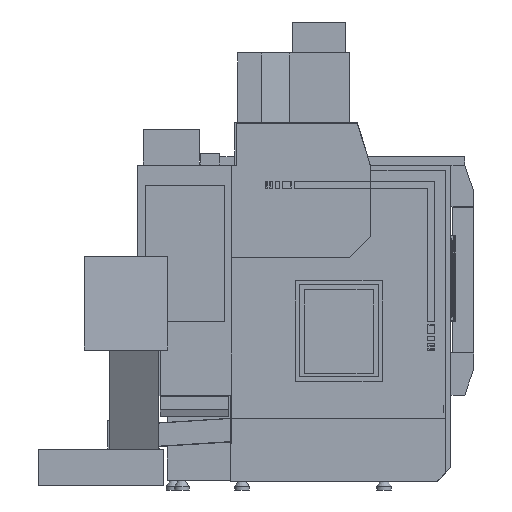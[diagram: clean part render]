
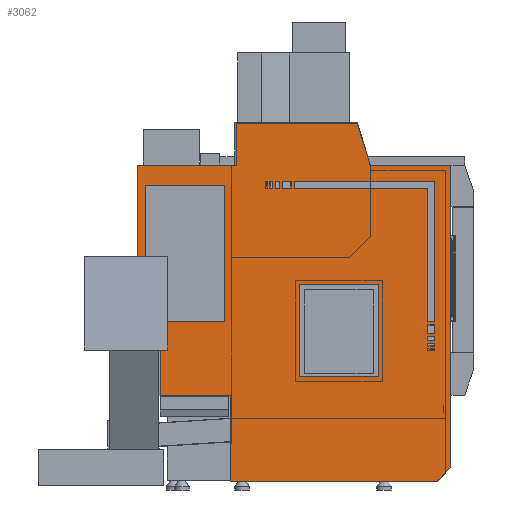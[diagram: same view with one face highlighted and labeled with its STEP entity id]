
A CAD part, left-side view. The second image highlights one B-rep face of the part: STEP entity #3062.
In plain terms, the highlighted planar face has unit normal (-1, 0, 0).
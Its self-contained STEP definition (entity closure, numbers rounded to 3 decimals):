
#2075=FACE_BOUND('',#8083,.T.);
#2076=FACE_BOUND('',#8084,.T.);
#2077=FACE_BOUND('',#8085,.T.);
#3062=ADVANCED_FACE('',(#2075,#2076,#2077),#4735,.T.);
#4735=PLANE('',#34901);
#8083=EDGE_LOOP('',(#13803,#13804,#13805,#13806));
#8084=EDGE_LOOP('',(#13807,#13808,#13809,#13810));
#8085=EDGE_LOOP('',(#13811,#13812,#13813,#13814,#13815,#13816,#13817,#13818,
#13819,#13820,#13821,#13822,#13823,#13824,#13825,#13826,#13827,#13828,#13829,
#13830));
#13803=ORIENTED_EDGE('',*,*,#23526,.F.);
#13804=ORIENTED_EDGE('',*,*,#23515,.F.);
#13805=ORIENTED_EDGE('',*,*,#23521,.F.);
#13806=ORIENTED_EDGE('',*,*,#23531,.F.);
#13807=ORIENTED_EDGE('',*,*,#23797,.T.);
#13808=ORIENTED_EDGE('',*,*,#23808,.T.);
#13809=ORIENTED_EDGE('',*,*,#23809,.T.);
#13810=ORIENTED_EDGE('',*,*,#23810,.F.);
#13811=ORIENTED_EDGE('',*,*,#23009,.F.);
#13812=ORIENTED_EDGE('',*,*,#23752,.F.);
#13813=ORIENTED_EDGE('',*,*,#22934,.F.);
#13814=ORIENTED_EDGE('',*,*,#22999,.T.);
#13815=ORIENTED_EDGE('',*,*,#22922,.T.);
#13816=ORIENTED_EDGE('',*,*,#23811,.F.);
#13817=ORIENTED_EDGE('',*,*,#23793,.F.);
#13818=ORIENTED_EDGE('',*,*,#23812,.F.);
#13819=ORIENTED_EDGE('',*,*,#23813,.F.);
#13820=ORIENTED_EDGE('',*,*,#23814,.F.);
#13821=ORIENTED_EDGE('',*,*,#23815,.F.);
#13822=ORIENTED_EDGE('',*,*,#23711,.F.);
#13823=ORIENTED_EDGE('',*,*,#23705,.T.);
#13824=ORIENTED_EDGE('',*,*,#23749,.F.);
#13825=ORIENTED_EDGE('',*,*,#23702,.F.);
#13826=ORIENTED_EDGE('',*,*,#23733,.T.);
#13827=ORIENTED_EDGE('',*,*,#23244,.F.);
#13828=ORIENTED_EDGE('',*,*,#23816,.F.);
#13829=ORIENTED_EDGE('',*,*,#23003,.F.);
#13830=ORIENTED_EDGE('',*,*,#22995,.T.);
#19365=VERTEX_POINT('',#47910);
#19366=VERTEX_POINT('',#47912);
#19374=VERTEX_POINT('',#48119);
#19375=VERTEX_POINT('',#48121);
#19415=VERTEX_POINT('',#48321);
#19416=VERTEX_POINT('',#48323);
#19419=VERTEX_POINT('',#48379);
#19423=VERTEX_POINT('',#48389);
#19616=VERTEX_POINT('',#48864);
#19617=VERTEX_POINT('',#48866);
#19774=VERTEX_POINT('',#49432);
#19776=VERTEX_POINT('',#49436);
#19780=VERTEX_POINT('',#49448);
#19783=VERTEX_POINT('',#49460);
#19899=VERTEX_POINT('',#51334);
#19900=VERTEX_POINT('',#51336);
#19901=VERTEX_POINT('',#51340);
#19902=VERTEX_POINT('',#51342);
#19905=VERTEX_POINT('',#51352);
#19934=VERTEX_POINT('',#51608);
#19941=VERTEX_POINT('',#51621);
#19942=VERTEX_POINT('',#51625);
#19945=VERTEX_POINT('',#51630);
#19954=VERTEX_POINT('',#51655);
#19955=VERTEX_POINT('',#51657);
#19956=VERTEX_POINT('',#51661);
#19957=VERTEX_POINT('',#51663);
#19958=VERTEX_POINT('',#51665);
#22922=EDGE_CURVE('',#19366,#19365,#27388,.T.);
#22934=EDGE_CURVE('',#19374,#19375,#27394,.T.);
#22995=EDGE_CURVE('',#19416,#19415,#27454,.T.);
#22999=EDGE_CURVE('',#19374,#19366,#27458,.T.);
#23003=EDGE_CURVE('',#19416,#19419,#27460,.T.);
#23009=EDGE_CURVE('',#19423,#19415,#27466,.T.);
#23244=EDGE_CURVE('',#19616,#19617,#27701,.T.);
#23515=EDGE_CURVE('',#19776,#19774,#27966,.T.);
#23521=EDGE_CURVE('',#19780,#19776,#27972,.T.);
#23526=EDGE_CURVE('',#19774,#19783,#27977,.T.);
#23531=EDGE_CURVE('',#19783,#19780,#27982,.T.);
#23702=EDGE_CURVE('',#19899,#19900,#28107,.T.);
#23705=EDGE_CURVE('',#19902,#19901,#28110,.T.);
#23711=EDGE_CURVE('',#19902,#19905,#28116,.T.);
#23733=EDGE_CURVE('',#19899,#19617,#28138,.T.);
#23749=EDGE_CURVE('',#19900,#19901,#28154,.T.);
#23752=EDGE_CURVE('',#19375,#19423,#28157,.T.);
#23793=EDGE_CURVE('',#19941,#19934,#28196,.T.);
#23797=EDGE_CURVE('',#19942,#19945,#28200,.T.);
#23808=EDGE_CURVE('',#19945,#19954,#28211,.T.);
#23809=EDGE_CURVE('',#19954,#19955,#28212,.T.);
#23810=EDGE_CURVE('',#19942,#19955,#28213,.T.);
#23811=EDGE_CURVE('',#19934,#19365,#28214,.T.);
#23812=EDGE_CURVE('',#19956,#19941,#28215,.T.);
#23813=EDGE_CURVE('',#19957,#19956,#28216,.T.);
#23814=EDGE_CURVE('',#19958,#19957,#28217,.T.);
#23815=EDGE_CURVE('',#19905,#19958,#28218,.T.);
#23816=EDGE_CURVE('',#19419,#19616,#28219,.T.);
#27388=LINE('',#47911,#31356);
#27394=LINE('',#48120,#31362);
#27454=LINE('',#48322,#31422);
#27458=LINE('',#48327,#31426);
#27460=LINE('',#48378,#31428);
#27466=LINE('',#48390,#31434);
#27701=LINE('',#48865,#31669);
#27966=LINE('',#49437,#31934);
#27972=LINE('',#49449,#31940);
#27977=LINE('',#49459,#31945);
#27982=LINE('',#49469,#31950);
#28107=LINE('',#51335,#32075);
#28110=LINE('',#51341,#32078);
#28116=LINE('',#51353,#32084);
#28138=LINE('',#51440,#32106);
#28154=LINE('',#51472,#32122);
#28157=LINE('',#51479,#32125);
#28196=LINE('',#51622,#32164);
#28200=LINE('',#51631,#32168);
#28211=LINE('',#51654,#32179);
#28212=LINE('',#51656,#32180);
#28213=LINE('',#51658,#32181);
#28214=LINE('',#51659,#32182);
#28215=LINE('',#51660,#32183);
#28216=LINE('',#51662,#32184);
#28217=LINE('',#51664,#32185);
#28218=LINE('',#51666,#32186);
#28219=LINE('',#51667,#32187);
#31356=VECTOR('',#38899,1.);
#31362=VECTOR('',#38909,1.);
#31422=VECTOR('',#39003,1.);
#31426=VECTOR('',#39007,1.);
#31428=VECTOR('',#39011,1.);
#31434=VECTOR('',#39019,1.);
#31669=VECTOR('',#39348,1.);
#31934=VECTOR('',#39811,1.);
#31940=VECTOR('',#39821,1.);
#31945=VECTOR('',#39832,1.);
#31950=VECTOR('',#39843,1.);
#32075=VECTOR('',#40112,1.);
#32078=VECTOR('',#40117,1.);
#32084=VECTOR('',#40127,1.);
#32106=VECTOR('',#40171,1.);
#32122=VECTOR('',#40205,1.);
#32125=VECTOR('',#40216,1.);
#32164=VECTOR('',#40293,1.);
#32168=VECTOR('',#40299,1.);
#32179=VECTOR('',#40318,1.);
#32180=VECTOR('',#40319,1.);
#32181=VECTOR('',#40320,1.);
#32182=VECTOR('',#40321,1.);
#32183=VECTOR('',#40322,1.);
#32184=VECTOR('',#40323,1.);
#32185=VECTOR('',#40324,1.);
#32186=VECTOR('',#40325,1.);
#32187=VECTOR('',#40326,1.);
#34901=AXIS2_PLACEMENT_3D('',#51668,#40327,#40328);
#38899=DIRECTION('',(0.,0.,-1.));
#38909=DIRECTION('',(0.,0.002,-1.));
#39003=DIRECTION('',(0.,1.,0.));
#39007=DIRECTION('',(0.,1.,0.));
#39011=DIRECTION('',(0.,-0.297,-0.955));
#39019=DIRECTION('',(0.,-0.593,0.805));
#39348=DIRECTION('',(0.,0.,-1.));
#39811=DIRECTION('',(0.,-1.,0.));
#39821=DIRECTION('',(0.,0.,-1.));
#39832=DIRECTION('',(0.,0.,1.));
#39843=DIRECTION('',(0.,1.,0.));
#40112=DIRECTION('',(0.,0.707,-0.707));
#40117=DIRECTION('',(0.,0.,-1.));
#40127=DIRECTION('',(0.,1.,0.));
#40171=DIRECTION('',(0.,-1.,0.));
#40205=DIRECTION('',(0.,1.,0.));
#40216=DIRECTION('',(0.,-1.,0.));
#40293=DIRECTION('',(0.,0.,1.));
#40299=DIRECTION('',(0.,0.,1.));
#40318=DIRECTION('',(0.,-1.,0.));
#40319=DIRECTION('',(0.,0.,-1.));
#40320=DIRECTION('',(0.,-1.,0.));
#40321=DIRECTION('',(0.,-1.,0.));
#40322=DIRECTION('',(0.,1.,0.));
#40323=DIRECTION('',(0.,0.,1.));
#40324=DIRECTION('',(0.,1.,0.));
#40325=DIRECTION('',(0.,0.,1.));
#40326=DIRECTION('',(0.,-1.,0.));
#40327=DIRECTION('',(-1.,0.,0.));
#40328=DIRECTION('',(0.,1.,0.));
#47910=CARTESIAN_POINT('',(-1100.,555.478,516.));
#47911=CARTESIAN_POINT('',(-1100.,555.478,773.));
#47912=CARTESIAN_POINT('',(-1100.,555.478,774.5));
#48119=CARTESIAN_POINT('',(-1100.,-193.889,774.5));
#48120=CARTESIAN_POINT('',(-1100.,-193.888,773.75));
#48121=CARTESIAN_POINT('',(-1100.,-193.886,773.));
#48321=CARTESIAN_POINT('',(-1100.,-195.064,774.5));
#48322=CARTESIAN_POINT('',(-1100.,1149.5,774.5));
#48323=CARTESIAN_POINT('',(-1100.,-195.126,774.5));
#48327=CARTESIAN_POINT('',(-1100.,1149.5,774.5));
#48378=CARTESIAN_POINT('',(-1100.,-195.454,773.446));
#48379=CARTESIAN_POINT('',(-1100.,-275.593,516.));
#48389=CARTESIAN_POINT('',(-1100.,-193.96,773.));
#48390=CARTESIAN_POINT('',(-1100.,-193.886,772.9));
#48864=CARTESIAN_POINT('',(-1100.,-769.,516.));
#48865=CARTESIAN_POINT('',(-1100.,-769.,483.));
#48866=CARTESIAN_POINT('',(-1100.,-769.,-1339.469));
#49432=CARTESIAN_POINT('',(-1100.,-292.5,-763.));
#49436=CARTESIAN_POINT('',(-1100.,129.5,-763.));
#49437=CARTESIAN_POINT('',(-1100.,129.5,-763.));
#49448=CARTESIAN_POINT('',(-1100.,129.5,-249.));
#49449=CARTESIAN_POINT('',(-1100.,129.5,-249.));
#49459=CARTESIAN_POINT('',(-1100.,-292.5,-763.));
#49460=CARTESIAN_POINT('',(-1100.,-292.5,-249.));
#49469=CARTESIAN_POINT('',(-1100.,-292.5,-249.));
#51334=CARTESIAN_POINT('',(-1100.,-768.531,-1339.469));
#51335=CARTESIAN_POINT('',(-1100.,-769.,-1339.));
#51336=CARTESIAN_POINT('',(-1100.,-684.,-1424.));
#51340=CARTESIAN_POINT('',(-1100.,579.4,-1424.));
#51341=CARTESIAN_POINT('',(-1100.,579.4,-1194.));
#51342=CARTESIAN_POINT('',(-1100.,579.4,-1422.4));
#51352=CARTESIAN_POINT('',(-1100.,581.,-1422.4));
#51353=CARTESIAN_POINT('',(-1100.,579.4,-1422.4));
#51440=CARTESIAN_POINT('',(-1100.,-736.,-1339.469));
#51472=CARTESIAN_POINT('',(-1100.,-684.,-1424.));
#51479=CARTESIAN_POINT('',(-1100.,553.978,773.));
#51608=CARTESIAN_POINT('',(-1100.,1151.,516.));
#51621=CARTESIAN_POINT('',(-1100.,1151.,-491.));
#51622=CARTESIAN_POINT('',(-1100.,1151.,516.));
#51625=CARTESIAN_POINT('',(-1100.,1106.,-442.5));
#51630=CARTESIAN_POINT('',(-1100.,1106.,392.5));
#51631=CARTESIAN_POINT('',(-1100.,1106.,-491.));
#51654=CARTESIAN_POINT('',(-1100.,866.,392.5));
#51655=CARTESIAN_POINT('',(-1100.,621.,392.5));
#51656=CARTESIAN_POINT('',(-1100.,621.,13.5));
#51657=CARTESIAN_POINT('',(-1100.,621.,-442.5));
#51658=CARTESIAN_POINT('',(-1100.,582.5,-442.5));
#51659=CARTESIAN_POINT('',(-1100.,581.,516.));
#51660=CARTESIAN_POINT('',(-1100.,621.,-491.));
#51661=CARTESIAN_POINT('',(-1100.,1014.5,-491.));
#51662=CARTESIAN_POINT('',(-1100.,1014.5,-695.));
#51663=CARTESIAN_POINT('',(-1100.,1014.5,-897.5));
#51664=CARTESIAN_POINT('',(-1100.,1149.5,-897.5));
#51665=CARTESIAN_POINT('',(-1100.,581.,-897.5));
#51666=CARTESIAN_POINT('',(-1100.,581.,483.));
#51667=CARTESIAN_POINT('',(-1100.,581.,516.));
#51668=CARTESIAN_POINT('',(-1100.,1149.5,-491.));
